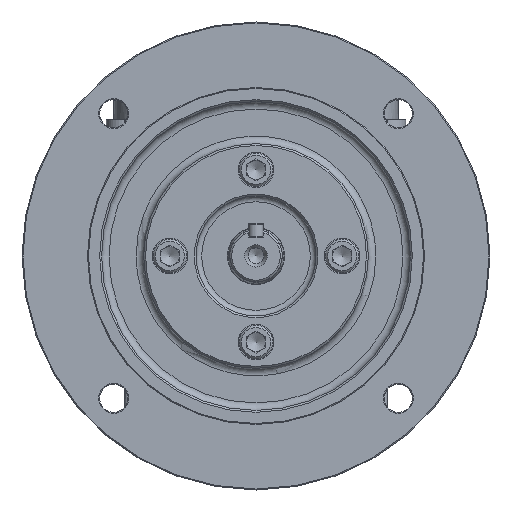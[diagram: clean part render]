
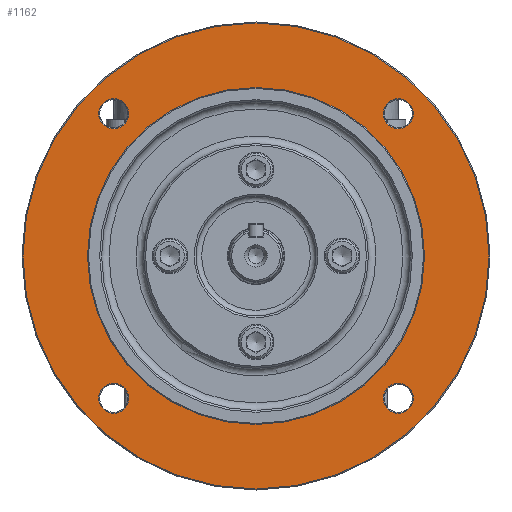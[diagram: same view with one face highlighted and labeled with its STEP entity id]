
A CAD part, top view. The second image highlights one B-rep face of the part: STEP entity #1162.
In plain terms, the highlighted planar face has unit normal (0, 0, 1).
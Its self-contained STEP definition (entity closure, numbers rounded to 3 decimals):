
#671 = AXIS2_PLACEMENT_3D ( 'NONE', #24027, #13530, #20585 ) ;
#1153 = DIRECTION ( 'NONE',  ( 1., 0., 0. ) ) ;
#1162 = ADVANCED_FACE ( 'NONE', ( #20584, #34527, #24260, #17180, #41542, #17637 ), #13747, .T. ) ;
#1622 = CARTESIAN_POINT ( 'NONE',  ( 76.014, 83.014, 125.75 ) ) ;
#1746 = VERTEX_POINT ( 'NONE', #30065 ) ;
#1827 = CARTESIAN_POINT ( 'NONE',  ( -76.014, 83.014, 125.75 ) ) ;
#3205 = VERTEX_POINT ( 'NONE', #10056 ) ;
#3382 = AXIS2_PLACEMENT_3D ( 'NONE', #1827, #12585, #33341 ) ;
#4572 = AXIS2_PLACEMENT_3D ( 'NONE', #1622, #4577, #1153 ) ;
#4577 = DIRECTION ( 'NONE',  ( 0., 0., -1. ) ) ;
#4738 = ORIENTED_EDGE ( 'NONE', *, *, #25240, .T. ) ;
#5156 = VERTEX_POINT ( 'NONE', #19988 ) ;
#5719 = EDGE_LOOP ( 'NONE', ( #4738 ) ) ;
#6419 = DIRECTION ( 'NONE',  ( 0., 0., -1. ) ) ;
#6561 = EDGE_LOOP ( 'NONE', ( #43969 ) ) ;
#6966 = EDGE_CURVE ( 'NONE', #9488, #9488, #17277, .T. ) ;
#7205 = CARTESIAN_POINT ( 'NONE',  ( 84.014, 83.014, 125.75 ) ) ;
#9253 = CARTESIAN_POINT ( 'NONE',  ( -68.014, 83.014, 125.75 ) ) ;
#9488 = VERTEX_POINT ( 'NONE', #9253 ) ;
#9869 = DIRECTION ( 'NONE',  ( 0., 1., 0. ) ) ;
#10056 = CARTESIAN_POINT ( 'NONE',  ( -68.014, -69.014, 125.75 ) ) ;
#10116 = CARTESIAN_POINT ( 'NONE',  ( 0., 7., 125.75 ) ) ;
#10348 = DIRECTION ( 'NONE',  ( 0., 0., -1. ) ) ;
#10578 = EDGE_CURVE ( 'NONE', #5156, #5156, #24778, .T. ) ;
#10615 = CIRCLE ( 'NONE', #30298, 90. ) ;
#10642 = VERTEX_POINT ( 'NONE', #7205 ) ;
#11511 = EDGE_CURVE ( 'NONE', #16583, #16583, #12338, .T. ) ;
#12338 = CIRCLE ( 'NONE', #37820, 124.5 ) ;
#12585 = DIRECTION ( 'NONE',  ( 0., 0., -1. ) ) ;
#13514 = EDGE_LOOP ( 'NONE', ( #21200 ) ) ;
#13530 = DIRECTION ( 'NONE',  ( 0., 0., -1. ) ) ;
#13747 = PLANE ( 'NONE',  #34409 ) ;
#15302 = EDGE_CURVE ( 'NONE', #1746, #1746, #10615, .T. ) ;
#16583 = VERTEX_POINT ( 'NONE', #30511 ) ;
#17180 = FACE_BOUND ( 'NONE', #23504, .T. ) ;
#17277 = CIRCLE ( 'NONE', #3382, 8. ) ;
#17637 = FACE_BOUND ( 'NONE', #34461, .T. ) ;
#18422 = DIRECTION ( 'NONE',  ( 1., 0., 0. ) ) ;
#19988 = CARTESIAN_POINT ( 'NONE',  ( 84.014, -69.014, 125.75 ) ) ;
#20584 = FACE_OUTER_BOUND ( 'NONE', #6561, .T. ) ;
#20585 = DIRECTION ( 'NONE',  ( 1., 0., 0. ) ) ;
#21200 = ORIENTED_EDGE ( 'NONE', *, *, #15302, .T. ) ;
#23504 = EDGE_LOOP ( 'NONE', ( #23684 ) ) ;
#23684 = ORIENTED_EDGE ( 'NONE', *, *, #10578, .T. ) ;
#24027 = CARTESIAN_POINT ( 'NONE',  ( 76.014, -69.014, 125.75 ) ) ;
#24221 = ORIENTED_EDGE ( 'NONE', *, *, #43003, .T. ) ;
#24260 = FACE_BOUND ( 'NONE', #5719, .T. ) ;
#24386 = ORIENTED_EDGE ( 'NONE', *, *, #6966, .T. ) ;
#24778 = CIRCLE ( 'NONE', #671, 8. ) ;
#25240 = EDGE_CURVE ( 'NONE', #10642, #10642, #30023, .T. ) ;
#27183 = CARTESIAN_POINT ( 'NONE',  ( -76.014, -69.014, 125.75 ) ) ;
#27688 = DIRECTION ( 'NONE',  ( 0., -1., 0. ) ) ;
#29049 = CIRCLE ( 'NONE', #34867, 8. ) ;
#30023 = CIRCLE ( 'NONE', #4572, 8. ) ;
#30065 = CARTESIAN_POINT ( 'NONE',  ( 0., 97., 125.75 ) ) ;
#30298 = AXIS2_PLACEMENT_3D ( 'NONE', #10116, #10348, #9869 ) ;
#30511 = CARTESIAN_POINT ( 'NONE',  ( -124.5, 7., 125.75 ) ) ;
#31112 = CARTESIAN_POINT ( 'NONE',  ( 0., 97., 125.75 ) ) ;
#31557 = DIRECTION ( 'NONE',  ( 0., 0., 1. ) ) ;
#33341 = DIRECTION ( 'NONE',  ( 1., 0., 0. ) ) ;
#34409 = AXIS2_PLACEMENT_3D ( 'NONE', #31112, #31557, #27688 ) ;
#34461 = EDGE_LOOP ( 'NONE', ( #24386 ) ) ;
#34527 = FACE_BOUND ( 'NONE', #13514, .T. ) ;
#34867 = AXIS2_PLACEMENT_3D ( 'NONE', #27183, #41264, #18422 ) ;
#37820 = AXIS2_PLACEMENT_3D ( 'NONE', #38161, #6419, #37939 ) ;
#37939 = DIRECTION ( 'NONE',  ( -1., 0., 0. ) ) ;
#38161 = CARTESIAN_POINT ( 'NONE',  ( 0., 7., 125.75 ) ) ;
#41264 = DIRECTION ( 'NONE',  ( 0., 0., -1. ) ) ;
#41490 = EDGE_LOOP ( 'NONE', ( #24221 ) ) ;
#41542 = FACE_BOUND ( 'NONE', #41490, .T. ) ;
#43003 = EDGE_CURVE ( 'NONE', #3205, #3205, #29049, .T. ) ;
#43969 = ORIENTED_EDGE ( 'NONE', *, *, #11511, .F. ) ;
